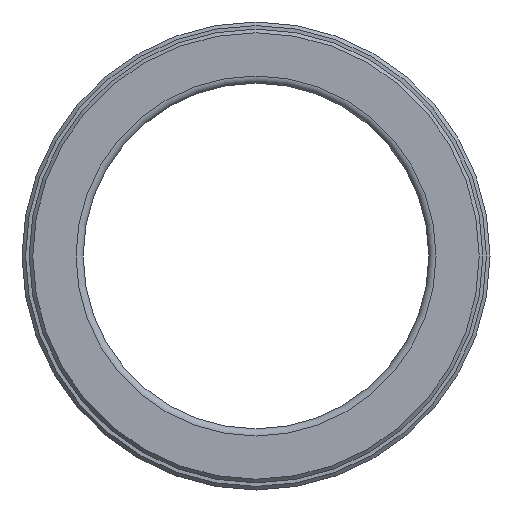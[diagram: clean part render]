
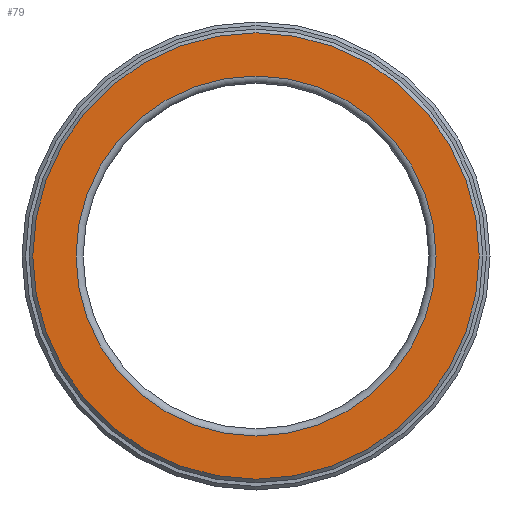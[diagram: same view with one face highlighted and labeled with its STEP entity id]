
A CAD part, front view. The second image highlights one B-rep face of the part: STEP entity #79.
In plain terms, the highlighted planar face has unit normal (0, -1, 0).
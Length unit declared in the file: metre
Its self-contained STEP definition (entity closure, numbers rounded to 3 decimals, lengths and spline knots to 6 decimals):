
#79 = ADVANCED_FACE( '', ( #105, #106 ), #107, .T. );
#105 = FACE_OUTER_BOUND( '', #165, .T. );
#106 = FACE_BOUND( '', #166, .T. );
#107 = PLANE( '', #167 );
#165 = EDGE_LOOP( '', ( #229 ) );
#166 = EDGE_LOOP( '', ( #230 ) );
#167 = AXIS2_PLACEMENT_3D( '', #231, #232, #233 );
#229 = ORIENTED_EDGE( '', *, *, #322, .T. );
#230 = ORIENTED_EDGE( '', *, *, #319, .F. );
#231 = CARTESIAN_POINT( '', ( 0.025, -0.055, 0. ) );
#232 = DIRECTION( '', ( 0., -1., 0. ) );
#233 = DIRECTION( '', ( 0., 0., -1. ) );
#319 = EDGE_CURVE( '', #339, #339, #340, .T. );
#322 = EDGE_CURVE( '', #345, #345, #346, .T. );
#339 = VERTEX_POINT( '', #379 );
#340 = CIRCLE( '', #380, 0.025 );
#345 = VERTEX_POINT( '', #385 );
#346 = CIRCLE( '', #386, 0.031 );
#379 = CARTESIAN_POINT( '', ( 0., -0.055, -0.025 ) );
#380 = AXIS2_PLACEMENT_3D( '', #419, #420, #421 );
#385 = CARTESIAN_POINT( '', ( 0., -0.055, -0.031 ) );
#386 = AXIS2_PLACEMENT_3D( '', #428, #429, #430 );
#419 = CARTESIAN_POINT( '', ( 0., -0.055, 0. ) );
#420 = DIRECTION( '', ( 0., -1., 0. ) );
#421 = DIRECTION( '', ( 0., 0., -1. ) );
#428 = CARTESIAN_POINT( '', ( 0., -0.055, 0. ) );
#429 = DIRECTION( '', ( 0., -1., 0. ) );
#430 = DIRECTION( '', ( 0., 0., -1. ) );
